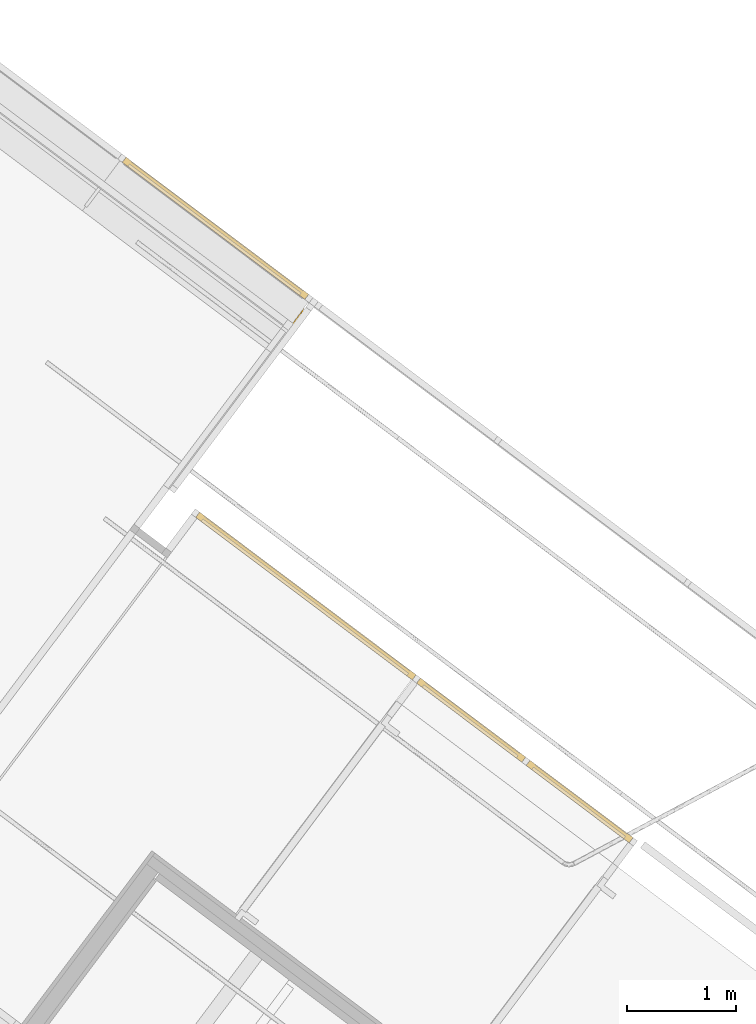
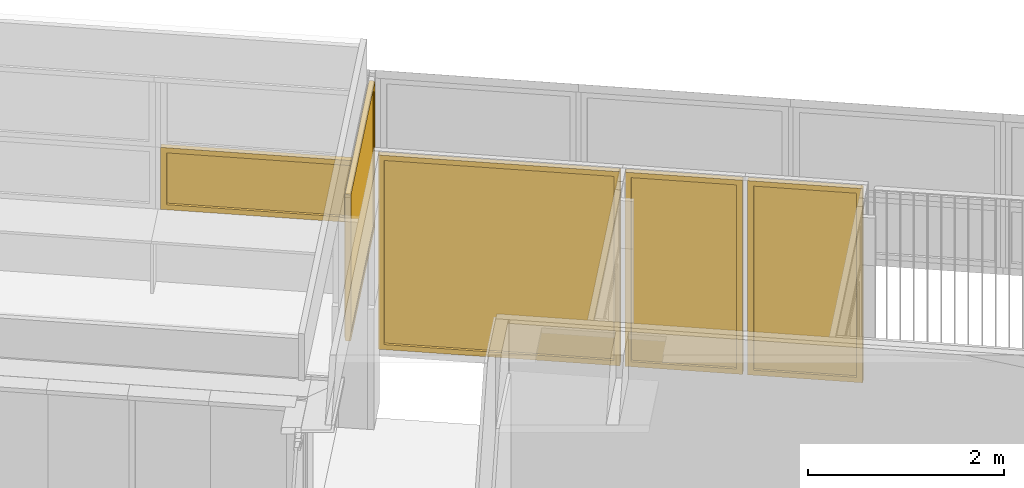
# One storey, part 239 of 243: 5 windows, 3 elements without a shape of their own.
"""IFC2X3 building model written with IfcOpenShell, lengths in metres."""

from ifc_helpers import new_model, entity, si_unit, converted_unit, derived_unit, direction, frame, origin, place, context, subcontext, project, spatial, faceted_brep, source, transform, mapped, material, material_list, type_object, type_shapes, element, aggregate, save


model = new_model("IFC2X3")

# Units and contexts
model_context = context("Model", 3, precision=1e-05, world=origin(), true_north=direction((6.123031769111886e-17, 1.0)))
body_context = subcontext(model_context, "Body", "Model", "MODEL_VIEW")
ifc_project = project(units=[si_unit("LENGTHUNIT", "METRE"), si_unit("AREAUNIT", "SQUARE_METRE"), si_unit("VOLUMEUNIT", "CUBIC_METRE"), converted_unit("PLANEANGLEUNIT", "DEGREE", entity("IfcRatioMeasure", 0.017453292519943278), si_unit("PLANEANGLEUNIT", "RADIAN"), dimensions=[0, 0, 0, 0, 0, 0, 0]), si_unit("MASSUNIT", "GRAM", prefix="KILO"), derived_unit("MASSDENSITYUNIT", [(si_unit("MASSUNIT", "GRAM", prefix="KILO"), 1), (si_unit("LENGTHUNIT", "METRE"), -3)]), derived_unit("IONCONCENTRATIONUNIT", [(si_unit("MASSUNIT", "GRAM", prefix="KILO"), 1), (si_unit("LENGTHUNIT", "METRE"), -3)]), derived_unit("MOMENTOFINERTIAUNIT", [(si_unit("LENGTHUNIT", "METRE"), 4)]), si_unit("TIMEUNIT", "SECOND"), si_unit("FREQUENCYUNIT", "HERTZ"), si_unit("THERMODYNAMICTEMPERATUREUNIT", "DEGREE_CELSIUS"), derived_unit("THERMALTRANSMITTANCEUNIT", [(si_unit("MASSUNIT", "GRAM", prefix="KILO"), 1), (si_unit("THERMODYNAMICTEMPERATUREUNIT", "KELVIN"), -1), (si_unit("TIMEUNIT", "SECOND"), -3)]), derived_unit("THERMALCONDUCTANCEUNIT", [(si_unit("MASSUNIT", "GRAM", prefix="KILO"), 1), (si_unit("THERMODYNAMICTEMPERATUREUNIT", "KELVIN"), -1), (si_unit("TIMEUNIT", "SECOND"), -3), (si_unit("LENGTHUNIT", "METRE"), 1)]), derived_unit("VOLUMETRICFLOWRATEUNIT", [(si_unit("LENGTHUNIT", "METRE"), 3), (si_unit("TIMEUNIT", "SECOND"), -1)]), derived_unit("MASSFLOWRATEUNIT", [(si_unit("MASSUNIT", "GRAM", prefix="KILO"), 1), (si_unit("TIMEUNIT", "SECOND"), -1)]), derived_unit("ROTATIONALFREQUENCYUNIT", [(si_unit("TIMEUNIT", "SECOND"), -1)]), si_unit("ELECTRICCURRENTUNIT", "AMPERE"), si_unit("ELECTRICVOLTAGEUNIT", "VOLT"), si_unit("POWERUNIT", "WATT"), si_unit("FORCEUNIT", "NEWTON", prefix="KILO"), si_unit("ILLUMINANCEUNIT", "LUX"), si_unit("LUMINOUSFLUXUNIT", "LUMEN"), si_unit("LUMINOUSINTENSITYUNIT", "CANDELA"), derived_unit("USERDEFINED", [(si_unit("MASSUNIT", "GRAM", prefix="KILO"), -1), (si_unit("LENGTHUNIT", "METRE"), -2), (si_unit("TIMEUNIT", "SECOND"), 3), (si_unit("LUMINOUSFLUXUNIT", "LUMEN"), 1)]), derived_unit("USERDEFINED", [(si_unit("MASSUNIT", "GRAM", prefix="KILO"), 1), (si_unit("TIMEUNIT", "SECOND"), -3), (si_unit("LENGTHUNIT", "METRE"), 3), (si_unit("ELECTRICCURRENTUNIT", "AMPERE"), -2)]), derived_unit("SOUNDPOWERUNIT", [(si_unit("MASSUNIT", "GRAM", prefix="KILO"), 1), (si_unit("TIMEUNIT", "SECOND"), -3), (si_unit("LENGTHUNIT", "METRE"), 2)]), derived_unit("SOUNDPRESSUREUNIT", [(si_unit("MASSUNIT", "GRAM", prefix="KILO"), 1), (si_unit("LENGTHUNIT", "METRE"), -1), (si_unit("TIMEUNIT", "SECOND"), -2)]), derived_unit("LINEARVELOCITYUNIT", [(si_unit("LENGTHUNIT", "METRE"), 1), (si_unit("TIMEUNIT", "SECOND"), -1)]), si_unit("PRESSUREUNIT", "PASCAL"), derived_unit("USERDEFINED", [(si_unit("MASSUNIT", "GRAM", prefix="KILO"), 1), (si_unit("LENGTHUNIT", "METRE"), -2), (si_unit("TIMEUNIT", "SECOND"), -2)]), derived_unit("LINEARFORCEUNIT", [(si_unit("MASSUNIT", "GRAM", prefix="KILO"), 1), (si_unit("TIMEUNIT", "SECOND"), -2)]), derived_unit("PLANARFORCEUNIT", [(si_unit("MASSUNIT", "GRAM", prefix="KILO"), 1), (si_unit("LENGTHUNIT", "METRE"), -1), (si_unit("TIMEUNIT", "SECOND"), -2)]), derived_unit("SPECIFICHEATCAPACITYUNIT", [(si_unit("THERMODYNAMICTEMPERATUREUNIT", "KELVIN"), -1), (si_unit("LENGTHUNIT", "METRE"), 2), (si_unit("TIMEUNIT", "SECOND"), -2)]), derived_unit("HEATINGVALUEUNIT", [(si_unit("LENGTHUNIT", "METRE"), 2), (si_unit("TIMEUNIT", "SECOND"), -2)]), derived_unit("VAPORPERMEABILITYUNIT", [(si_unit("LENGTHUNIT", "METRE"), -1), (si_unit("TIMEUNIT", "SECOND"), 1)]), derived_unit("DYNAMICVISCOSITYUNIT", [(si_unit("MASSUNIT", "GRAM", prefix="KILO"), 1), (si_unit("TIMEUNIT", "SECOND"), -1), (si_unit("LENGTHUNIT", "METRE"), -1)]), derived_unit("THERMALEXPANSIONCOEFFICIENTUNIT", [(si_unit("THERMODYNAMICTEMPERATUREUNIT", "KELVIN"), -1)]), derived_unit("MODULUSOFELASTICITYUNIT", [(si_unit("MASSUNIT", "GRAM", prefix="KILO"), 1), (si_unit("LENGTHUNIT", "METRE"), -1), (si_unit("TIMEUNIT", "SECOND"), -2)]), derived_unit("ISOTHERMALMOISTURECAPACITYUNIT", [(si_unit("LENGTHUNIT", "METRE"), 3), (si_unit("MASSUNIT", "GRAM", prefix="KILO"), -1)]), derived_unit("MOISTUREDIFFUSIVITYUNIT", [(si_unit("TIMEUNIT", "SECOND"), -1), (si_unit("LENGTHUNIT", "METRE"), 2)])], contexts=[model_context])

# Site, building, storey
site_placement = place(None, frame((0.0, 0.0, 235.0), z_axis=(0.0, 0.0, 1.0), x_axis=(-0.7996477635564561, 0.6004693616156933, 0.0)))
site = spatial("IfcSite", under=ifc_project, at=site_placement, Name="Default", CompositionType="ELEMENT")
building_placement = place(site_placement, origin())
building = spatial("IfcBuilding", under=site, at=building_placement, CompositionType="ELEMENT")
storey_placement = place(building_placement, origin())
storey = spatial("IfcBuildingStorey", under=building, at=storey_placement, Name="P0- Escola", CompositionType="ELEMENT", Elevation=0.0)

# Curtain wall, window
curtain_wall_type_1 = type_object("IfcCurtainWallType", Name="Muro cortina:MC- EXT- MC6", PredefinedType="NOTDEFINED")
curtain_wall_1_placement = place(storey_placement, origin())
curtain_wall_1 = element("IfcCurtainWall", 1, at=curtain_wall_1_placement, inside=storey, type_object=curtain_wall_type_1, Name="Muro cortina:MC- EXT- MC6", ObjectType="Muro cortina:MC- EXT- MC6")
ifc_material_1 = material(Name="_Vidre")
ifc_material_2 = material(Name="_Alumini- T1- Perfil")
ifc_material_list = material_list([ifc_material_1, ifc_material_2])
window_style_1 = type_object("IfcWindowStyle", Name="MC- Alu- Conjunt vidre fix- 62x60 cm:MC- Alu- Conjunt vidre fix- 62x60 cm", ConstructionType="NOTDEFINED", OperationType="NOTDEFINED", ParameterTakesPrecedence=False, Sizeable=False, material=ifc_material_list)
shared_shape_1 = source(origin(), body_context, "Body", "Brep", [
    faceted_brep([(-0.9991912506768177, -0.007600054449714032, 0.048806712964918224), (0.9991912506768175, -0.007600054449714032, 0.048806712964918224), (0.9991912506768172, -0.03160022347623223, 0.048806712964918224), (-0.9991912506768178, -0.03160022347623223, 0.048806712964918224), (-0.9991912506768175, -0.007600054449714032, 0.7210000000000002), (0.9991912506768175, -0.007600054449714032, 0.7210000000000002), (0.9991912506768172, -0.03160022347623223, 0.7210000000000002), (-0.9991912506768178, -0.03160022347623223, 0.7210000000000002)], [[[0, 1, 2, 3]], [[4, 5, 1, 0]], [[5, 6, 2, 1]], [[6, 7, 3, 2]], [[7, 4, 0, 3]], [[4, 7, 6, 5]]]),
    faceted_brep([(-1.0479979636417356, -0.05999999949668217, 0.7700000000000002), (-1.0479979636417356, 0.0, 0.7700000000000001), (-1.0479979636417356, 0.0, 0.0), (-1.0479979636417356, -0.05999999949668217, 0.0), (-0.9851911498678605, 0.0, 0.707193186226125), (-0.9851911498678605, 0.0, 0.06280681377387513), (0.9851911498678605, 0.0, 0.06280681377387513), (0.9851911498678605, 0.0, 0.707193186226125), (1.0479979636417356, 0.0, 0.7700000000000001), (1.0479979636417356, 0.0, 0.0), (1.0479979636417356, -0.05999999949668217, 0.0), (1.0479979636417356, -0.05999999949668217, 0.7700000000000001), (0.9851939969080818, -0.05999999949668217, 0.7071960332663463), (0.9851939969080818, -0.05999999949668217, 0.0628039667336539), (-0.9851939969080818, -0.05999999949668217, 0.06280396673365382), (-0.9851939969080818, -0.05999999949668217, 0.7071960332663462), (-0.9851939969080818, -0.03160022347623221, 0.7071960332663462), (-0.9851939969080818, -0.03160022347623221, 0.06280396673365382), (0.9851939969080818, -0.03160022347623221, 0.0628039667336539), (0.9851939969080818, -0.03160022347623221, 0.7071960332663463), (0.9991912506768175, -0.03160022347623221, 0.721193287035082), (0.9991912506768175, -0.03160022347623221, 0.048806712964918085), (-0.9991912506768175, -0.03160022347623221, 0.04880671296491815), (-0.9991912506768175, -0.03160022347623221, 0.721193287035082), (-0.9991912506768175, -0.007600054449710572, 0.721193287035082), (-0.9991912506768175, -0.007600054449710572, 0.04880671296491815), (0.9991912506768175, -0.007600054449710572, 0.048806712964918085), (0.9991912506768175, -0.007600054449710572, 0.721193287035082), (0.9851911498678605, -0.007600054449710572, 0.707193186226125), (0.9851911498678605, -0.007600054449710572, 0.06280681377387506), (-0.9851911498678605, -0.007600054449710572, 0.06280681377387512), (-0.9851911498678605, -0.007600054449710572, 0.707193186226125)], [[[0, 1, 2, 3]], [[4, 5, 6, 7], [8, 9, 2, 1]], [[3, 2, 9, 10]], [[0, 3, 10, 11], [12, 13, 14, 15]], [[16, 15, 14, 17]], [[17, 14, 13, 18]], [[16, 17, 18, 19], [20, 21, 22, 23]], [[24, 23, 22, 25]], [[25, 22, 21, 26]], [[24, 25, 26, 27], [28, 29, 30, 31]], [[4, 31, 30, 5]], [[5, 30, 29, 6]], [[10, 9, 8, 11]], [[18, 13, 12, 19]], [[26, 21, 20, 27]], [[6, 29, 28, 7]], [[11, 8, 1, 0]], [[19, 12, 15, 16]], [[27, 20, 23, 24]], [[7, 28, 31, 4]]], outer=[[True], [False, True], [True], [True, False], [True], [True], [False, True], [True], [True], [True, False], [True], [True], [True], [True], [True], [True], [True], [True], [True], [True]]),
])
type_shapes(window_style_1, [shared_shape_1])
window_1_placement = place(curtain_wall_1_placement, frame((37.7431456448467, -42.34019175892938, 0.685), z_axis=(0.0, 0.0, 1.0), x_axis=(-1.0, 0.0, 0.0)))
window_1 = element("IfcWindow", 2, at=window_1_placement, type_object=window_style_1, material=ifc_material_list, Name="MC- Alu- Conjunt vidre fix- 62x60 cm:MC- Alu- Conjunt vidre fix- 62x60 cm", ObjectType="MC- Alu- Conjunt vidre fix- 62x60 cm:MC- Alu- Conjunt vidre fix- 62x60 cm", OverallHeight=0.7700000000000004, OverallWidth=2.095995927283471, context=body_context, shape_type="MappedRepresentation", body=[
    mapped(shared_shape_1, transform((0.0, 0.0, 0.0), scale=1.0)),
])
aggregate(curtain_wall_1, [window_1])

curtain_wall_2_placement = place(storey_placement, origin())
curtain_wall_2 = element("IfcCurtainWall", 3, at=curtain_wall_2_placement, inside=storey, type_object=curtain_wall_type_1, Name="Muro cortina:MC- EXT- MC6", ObjectType="Muro cortina:MC- EXT- MC6")
window_style_2 = type_object("IfcWindowStyle", Name="MC- Alu- Conjunt finestra basculant- 68x68 cm:MC- Alu- Conjunt finestra basculant- 68x68 cm", ConstructionType="NOTDEFINED", OperationType="NOTDEFINED", ParameterTakesPrecedence=False, Sizeable=False, material=ifc_material_list)
shared_shape_2 = source(origin(), body_context, "Body", "Brep", [
    faceted_brep([(-0.9679117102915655, -0.03559830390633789, 0.051999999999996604), (-0.9679117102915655, -0.01159813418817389, 0.051999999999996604), (0.9679117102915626, -0.011598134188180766, 0.051999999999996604), (0.9679117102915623, -0.03559830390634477, 0.051999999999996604), (-0.9679117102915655, -0.03559830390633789, 1.765302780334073), (-0.9679117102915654, -0.01159813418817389, 1.765302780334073), (0.9679117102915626, -0.011598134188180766, 1.765302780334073), (0.9679117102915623, -0.03559830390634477, 1.765302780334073)], [[[0, 1, 2, 3]], [[4, 5, 1, 0]], [[5, 6, 2, 1]], [[6, 7, 3, 2]], [[7, 4, 0, 3]], [[4, 7, 6, 5]]]),
    faceted_brep([(0.9522108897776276, -0.009998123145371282, 1.7496019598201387), (0.9522108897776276, -0.007998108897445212, 1.7496019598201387), (0.9522108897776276, -0.007998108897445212, 0.06789804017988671), (0.9522108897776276, -0.009998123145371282, 0.06789804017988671), (0.9811089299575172, -0.007998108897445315, 1.7785000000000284), (0.9811089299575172, -0.007998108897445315, 0.03899999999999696), (-0.98110892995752, -0.007998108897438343, 0.03899999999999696), (-0.98110892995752, -0.007998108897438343, 1.7785000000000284), (-0.9522108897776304, -0.007998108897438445, 1.7496019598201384), (-0.9522108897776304, -0.007998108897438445, 0.06789804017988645), (-0.9522108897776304, -0.009998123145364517, 0.06789804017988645), (-0.9522108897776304, -0.009998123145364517, 1.7496019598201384), (-0.9679117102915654, -0.009998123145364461, 1.7653027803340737), (-0.9679117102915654, -0.009998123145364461, 0.052197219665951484), (0.9679117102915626, -0.00999812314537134, 0.052197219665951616), (0.9679117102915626, -0.00999812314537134, 1.7653027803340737), (0.9679117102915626, -0.040799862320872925, 1.7653027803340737), (0.9679117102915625, -0.04079986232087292, 0.052197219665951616), (-0.9679117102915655, -0.04079986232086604, 0.052197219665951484), (-0.9679117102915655, -0.04079986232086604, 1.7653027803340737), (-0.9522108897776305, -0.0407998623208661, 1.7496019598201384), (-0.9522108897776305, -0.0407998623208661, 0.06789804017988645), (0.9522108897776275, -0.04079986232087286, 0.06789804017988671), (0.9522108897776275, -0.04079986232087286, 1.7496019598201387), (0.9522108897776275, -0.06800005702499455, 1.7496019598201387), (0.9522108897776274, -0.06800005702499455, 0.06789804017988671), (-0.9522108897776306, -0.06800005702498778, 0.06789804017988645), (-0.9522108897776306, -0.06800005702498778, 1.7496019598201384), (-0.9986128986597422, -0.06800005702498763, 1.7960039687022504), (-0.9986128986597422, -0.06800005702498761, 0.021496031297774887), (0.998612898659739, -0.06800005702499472, 0.021496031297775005), (0.998612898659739, -0.06800005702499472, 1.7960039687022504), (0.998612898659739, -0.06450003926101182, 1.7960039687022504), (0.9986128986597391, -0.06450003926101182, 0.021496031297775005), (-0.9986128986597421, -0.06450003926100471, 0.02149603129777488), (-0.9986128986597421, -0.06450003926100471, 1.7960039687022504), (-0.9811089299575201, -0.06450003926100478, 1.7785000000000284), (-0.9811089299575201, -0.06450003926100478, 0.03899999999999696), (0.9811089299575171, -0.06450003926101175, 0.03899999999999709), (0.9811089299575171, -0.06450003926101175, 1.7785000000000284)], [[[0, 1, 2, 3]], [[4, 5, 6, 7], [8, 9, 2, 1]], [[3, 2, 9, 10]], [[0, 3, 10, 11], [12, 13, 14, 15]], [[16, 15, 14, 17]], [[17, 14, 13, 18]], [[16, 17, 18, 19], [20, 21, 22, 23]], [[24, 23, 22, 25]], [[25, 22, 21, 26]], [[24, 25, 26, 27], [28, 29, 30, 31]], [[32, 31, 30, 33]], [[33, 30, 29, 34]], [[32, 33, 34, 35], [36, 37, 38, 39]], [[4, 39, 38, 5]], [[5, 38, 37, 6]], [[10, 9, 8, 11]], [[18, 13, 12, 19]], [[26, 21, 20, 27]], [[34, 29, 28, 35]], [[6, 37, 36, 7]], [[11, 8, 1, 0]], [[19, 12, 15, 16]], [[27, 20, 23, 24]], [[35, 28, 31, 32]], [[7, 36, 39, 4]]], outer=[[True], [True, False], [True], [False, True], [True], [True], [True, False], [True], [True], [False, True], [True], [True], [True, False], [True], [True], [True], [True], [True], [True], [True], [True], [True], [True], [True], [True]]),
    faceted_brep([(-0.957193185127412, 0.0, 1.7546931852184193), (-0.957193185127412, -0.0040000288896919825, 1.7546931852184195), (-0.9571931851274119, -0.0040000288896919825, 0.06280681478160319), (-0.9571931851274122, 0.0, 0.06280681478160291), (-0.9925998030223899, -0.0040000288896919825, 1.7900998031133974), (-0.9925998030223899, -0.0040000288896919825, 0.02740019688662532), (0.9925998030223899, -0.0040000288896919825, 0.02740019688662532), (0.9925998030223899, -0.0040000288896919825, 1.7900998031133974), (0.957193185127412, -0.0040000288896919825, 1.7546931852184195), (0.957193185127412, -0.0040000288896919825, 0.06280681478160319), (0.9571931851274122, 0.0, 0.06280681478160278), (0.9571931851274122, 0.0, 1.7546931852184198), (1.0199999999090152, 0.0, 1.8175000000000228), (1.0199999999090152, 0.0, 0.0), (-1.0199999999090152, 0.0, 0.0), (-1.0199999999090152, 0.0, 1.8175000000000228), (-1.0199999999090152, -0.05999999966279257, 1.8175000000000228), (-1.0199999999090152, -0.05999999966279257, 0.0), (1.0199999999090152, -0.05999999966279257, 0.0), (1.0199999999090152, -0.05999999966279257, 1.8175000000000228), (0.9925998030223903, -0.05999999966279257, 1.7900998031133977), (0.9925998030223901, -0.05999999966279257, 0.027400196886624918), (-0.9925998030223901, -0.05999999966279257, 0.027400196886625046), (-0.9925998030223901, -0.05999999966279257, 1.7900998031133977)], [[[0, 1, 2, 3]], [[4, 5, 6, 7], [8, 9, 2, 1]], [[3, 2, 9, 10]], [[0, 3, 10, 11], [12, 13, 14, 15]], [[16, 15, 14, 17]], [[17, 14, 13, 18]], [[16, 17, 18, 19], [20, 21, 22, 23]], [[4, 23, 22, 5]], [[5, 22, 21, 6]], [[10, 9, 8, 11]], [[18, 13, 12, 19]], [[6, 21, 20, 7]], [[11, 8, 1, 0]], [[19, 12, 15, 16]], [[7, 20, 23, 4]]], outer=[[True], [True, False], [True], [False, True], [True], [True], [True, False], [True], [True], [True], [True], [True], [True], [True], [True]]),
])
type_shapes(window_style_2, [shared_shape_2])
window_2_placement = place(curtain_wall_2_placement, frame((36.585147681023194, -41.2101917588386, 0.685), z_axis=(0.0, 0.0, 1.0), x_axis=(0.0, 1.0, 0.0)))
window_2 = element("IfcWindow", 4, at=window_2_placement, type_object=window_style_2, material=ifc_material_list, Name="MC- Alu- Conjunt finestra basculant- 68x68 cm:MC- Alu- Conjunt finestra basculant- 68x68 cm", ObjectType="MC- Alu- Conjunt finestra basculant- 68x68 cm:MC- Alu- Conjunt finestra basculant- 68x68 cm", OverallHeight=1.817500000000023, OverallWidth=2.0399999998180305, context=body_context, shape_type="MappedRepresentation", body=[
    mapped(shared_shape_2, transform((0.0, 0.0, 0.0), scale=1.0)),
])
aggregate(curtain_wall_2, [window_2])

# Curtain wall, windows
curtain_wall_type_2 = type_object("IfcCurtainWallType", PredefinedType="NOTDEFINED")
curtain_wall_3_placement = place(storey_placement, origin())
curtain_wall_3 = element("IfcCurtainWall", 5, at=curtain_wall_3_placement, inside=storey, type_object=curtain_wall_type_2)
window_style_3 = type_object("IfcWindowStyle", Name="MC- Alu- Conjunt vidre fix- 62x60 cm:MC- Alu- Conjunt vidre fix- 62x60 cm", ConstructionType="NOTDEFINED", OperationType="NOTDEFINED", ParameterTakesPrecedence=False, Sizeable=False, material=ifc_material_list)
shared_shape_3 = source(origin(), body_context, "Body", "Brep", [
    faceted_brep([(-1.1936953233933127, -0.007600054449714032, 0.048806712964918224), (1.1936953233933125, -0.007600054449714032, 0.048806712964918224), (1.1936953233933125, -0.03160022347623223, 0.048806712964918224), (-1.1936953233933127, -0.03160022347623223, 0.048806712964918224), (-1.1936953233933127, -0.007600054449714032, 2.366000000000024), (1.1936953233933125, -0.007600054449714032, 2.366000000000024), (1.1936953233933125, -0.03160022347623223, 2.366000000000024), (-1.1936953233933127, -0.03160022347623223, 2.366000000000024)], [[[0, 1, 2, 3]], [[4, 5, 1, 0]], [[5, 6, 2, 1]], [[6, 7, 3, 2]], [[7, 4, 0, 3]], [[4, 7, 6, 5]]]),
    faceted_brep([(-1.2425020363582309, -0.05999999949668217, 2.415000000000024), (-1.2425020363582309, 0.0, 2.415000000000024), (-1.2425020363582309, 0.0, 0.0), (-1.2425020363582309, -0.05999999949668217, 0.0), (-1.1796952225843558, 0.0, 2.352193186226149), (-1.1796952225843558, 0.0, 0.06280681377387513), (1.1796952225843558, 0.0, 0.06280681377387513), (1.1796952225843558, 0.0, 2.352193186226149), (1.2425020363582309, 0.0, 2.415000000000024), (1.2425020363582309, 0.0, 0.0), (1.2425020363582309, -0.05999999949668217, 0.0), (1.2425020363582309, -0.05999999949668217, 2.415000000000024), (1.1796980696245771, -0.05999999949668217, 2.35219603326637), (1.1796980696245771, -0.05999999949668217, 0.06280396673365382), (-1.1796980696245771, -0.05999999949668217, 0.06280396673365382), (-1.1796980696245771, -0.05999999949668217, 2.35219603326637), (-1.1796980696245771, -0.03160022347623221, 2.35219603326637), (-1.1796980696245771, -0.03160022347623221, 0.06280396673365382), (1.1796980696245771, -0.03160022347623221, 0.06280396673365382), (1.1796980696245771, -0.03160022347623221, 2.35219603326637), (1.1936953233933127, -0.03160022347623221, 2.366193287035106), (1.1936953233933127, -0.03160022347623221, 0.048806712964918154), (-1.193695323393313, -0.03160022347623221, 0.04880671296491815), (-1.1936953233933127, -0.03160022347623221, 2.366193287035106), (-1.1936953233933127, -0.007600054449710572, 2.366193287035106), (-1.1936953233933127, -0.007600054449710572, 0.04880671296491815), (1.1936953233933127, -0.007600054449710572, 0.048806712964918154), (1.1936953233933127, -0.007600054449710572, 2.366193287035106), (1.179695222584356, -0.007600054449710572, 2.352193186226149), (1.1796952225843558, -0.007600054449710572, 0.06280681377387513), (-1.179695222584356, -0.007600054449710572, 0.06280681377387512), (-1.1796952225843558, -0.007600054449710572, 2.352193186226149)], [[[0, 1, 2, 3]], [[4, 5, 6, 7], [8, 9, 2, 1]], [[3, 2, 9, 10]], [[0, 3, 10, 11], [12, 13, 14, 15]], [[16, 15, 14, 17]], [[17, 14, 13, 18]], [[16, 17, 18, 19], [20, 21, 22, 23]], [[24, 23, 22, 25]], [[25, 22, 21, 26]], [[24, 25, 26, 27], [28, 29, 30, 31]], [[4, 31, 30, 5]], [[5, 30, 29, 6]], [[10, 9, 8, 11]], [[18, 13, 12, 19]], [[26, 21, 20, 27]], [[6, 29, 28, 7]], [[11, 8, 1, 0]], [[19, 12, 15, 16]], [[27, 20, 23, 24]], [[7, 28, 31, 4]]], outer=[[True], [False, True], [True], [True, False], [True], [True], [False, True], [True], [True], [True, False], [True], [True], [True], [True], [True], [True], [True], [True], [True], [True]]),
])
type_shapes(window_style_3, [shared_shape_3])
window_3_placement = place(curtain_wall_3_placement, frame((35.052645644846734, -40.14019175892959, 0.6849999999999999), z_axis=(0.0, 0.0, 1.0), x_axis=(-1.0, 0.0, 0.0)))
window_3 = element("IfcWindow", 6, at=window_3_placement, type_object=window_style_3, material=ifc_material_list, Name="MC- Alu- Conjunt vidre fix- 62x60 cm:MC- Alu- Conjunt vidre fix- 62x60 cm", ObjectType="MC- Alu- Conjunt vidre fix- 62x60 cm:MC- Alu- Conjunt vidre fix- 62x60 cm", OverallHeight=2.415000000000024, OverallWidth=2.4850040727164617, context=body_context, shape_type="MappedRepresentation", body=[
    mapped(shared_shape_3, transform((0.0, 0.0, 0.0), scale=1.0)),
])
window_style_4 = type_object("IfcWindowStyle", Name="MC- Alu- Conjunt vidre fix- 62x60 cm:MC- Alu- Conjunt vidre fix- 62x60 cm", ConstructionType="NOTDEFINED", OperationType="NOTDEFINED", ParameterTakesPrecedence=False, Sizeable=False, material=ifc_material_list)
shared_shape_4 = source(origin(), body_context, "Body", "Brep", [
    faceted_brep([(-0.5549432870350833, -0.007600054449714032, 0.048806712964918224), (0.554943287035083, -0.007600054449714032, 0.048806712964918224), (0.554943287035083, -0.03160022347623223, 0.048806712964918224), (-0.5549432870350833, -0.03160022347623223, 0.048806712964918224), (-0.5549432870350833, -0.007600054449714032, 2.366000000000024), (0.554943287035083, -0.007600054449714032, 2.366000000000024), (0.554943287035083, -0.03160022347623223, 2.366000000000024), (-0.5549432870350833, -0.03160022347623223, 2.366000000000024)], [[[0, 1, 2, 3]], [[4, 5, 1, 0]], [[5, 6, 2, 1]], [[6, 7, 3, 2]], [[7, 4, 0, 3]], [[4, 7, 6, 5]]]),
    faceted_brep([(-0.6037500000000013, -0.05999999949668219, 2.415000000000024), (-0.6037500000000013, 0.0, 2.415000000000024), (-0.6037500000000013, 0.0, 0.0), (-0.6037500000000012, -0.05999999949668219, 0.0), (-0.5409431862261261, 0.0, 2.352193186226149), (-0.5409431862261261, 0.0, 0.06280681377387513), (0.5409431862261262, 0.0, 0.06280681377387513), (0.5409431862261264, 0.0, 2.352193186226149), (0.6037500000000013, 0.0, 2.415000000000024), (0.6037500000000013, 0.0, 0.0), (0.6037500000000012, -0.05999999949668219, 0.0), (0.6037500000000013, -0.05999999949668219, 2.415000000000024), (0.5409460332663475, -0.05999999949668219, 2.35219603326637), (0.5409460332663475, -0.05999999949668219, 0.06280396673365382), (-0.5409460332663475, -0.05999999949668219, 0.06280396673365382), (-0.5409460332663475, -0.05999999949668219, 2.35219603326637), (-0.5409460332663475, -0.03160022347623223, 2.35219603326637), (-0.5409460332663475, -0.03160022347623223, 0.06280396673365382), (0.5409460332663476, -0.03160022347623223, 0.06280396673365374), (0.5409460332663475, -0.03160022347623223, 2.35219603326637), (0.5549432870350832, -0.03160022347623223, 2.366193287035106), (0.5549432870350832, -0.03160022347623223, 0.048806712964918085), (-0.5549432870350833, -0.03160022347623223, 0.04880671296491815), (-0.5549432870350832, -0.03160022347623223, 2.366193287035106), (-0.5549432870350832, -0.007600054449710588, 2.366193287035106), (-0.5549432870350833, -0.007600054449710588, 0.04880671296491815), (0.5549432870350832, -0.007600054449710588, 0.048806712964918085), (0.5549432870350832, -0.007600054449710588, 2.366193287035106), (0.5409431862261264, -0.007600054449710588, 2.352193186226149), (0.5409431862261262, -0.007600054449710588, 0.06280681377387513), (-0.5409431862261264, -0.007600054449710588, 0.06280681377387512), (-0.5409431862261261, -0.007600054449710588, 2.352193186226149)], [[[0, 1, 2, 3]], [[4, 5, 6, 7], [8, 9, 2, 1]], [[3, 2, 9, 10]], [[0, 3, 10, 11], [12, 13, 14, 15]], [[16, 15, 14, 17]], [[17, 14, 13, 18]], [[16, 17, 18, 19], [20, 21, 22, 23]], [[24, 23, 22, 25]], [[25, 22, 21, 26]], [[24, 25, 26, 27], [28, 29, 30, 31]], [[4, 31, 30, 5]], [[5, 30, 29, 6]], [[10, 9, 8, 11]], [[18, 13, 12, 19]], [[26, 21, 20, 27]], [[6, 29, 28, 7]], [[11, 8, 1, 0]], [[19, 12, 15, 16]], [[27, 20, 23, 24]], [[7, 28, 31, 4]]], outer=[[True], [False, True], [True], [True, False], [True], [True], [False, True], [True], [True], [True, False], [True], [True], [True], [True], [True], [True], [True], [True], [True], [True]]),
])
type_shapes(window_style_4, [shared_shape_4])
window_4_placement = place(curtain_wall_3_placement, frame((33.1563936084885, -40.14019175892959, 0.6849999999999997), z_axis=(0.0, 0.0, 1.0), x_axis=(-1.0, 0.0, 0.0)))
window_4 = element("IfcWindow", 7, at=window_4_placement, type_object=window_style_4, material=ifc_material_list, Name="MC- Alu- Conjunt vidre fix- 62x60 cm:MC- Alu- Conjunt vidre fix- 62x60 cm", ObjectType="MC- Alu- Conjunt vidre fix- 62x60 cm:MC- Alu- Conjunt vidre fix- 62x60 cm", OverallHeight=2.415000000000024, OverallWidth=1.207500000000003, context=body_context, shape_type="MappedRepresentation", body=[
    mapped(shared_shape_4, transform((0.0, 0.0, 0.0), scale=1.0)),
])
window_style_5 = type_object("IfcWindowStyle", Name="MC- Alu- Conjunt vidre fix- 62x60 cm:MC- Alu- Conjunt vidre fix- 62x60 cm", ConstructionType="NOTDEFINED", OperationType="NOTDEFINED", ParameterTakesPrecedence=False, Sizeable=False, material=ifc_material_list)
shared_shape_5 = source(origin(), body_context, "Body", "Brep", [
    faceted_brep([(-0.5424432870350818, -0.007600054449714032, 0.048806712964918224), (0.5424432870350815, -0.007600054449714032, 0.048806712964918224), (0.5424432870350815, -0.03160022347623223, 0.048806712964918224), (-0.5424432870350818, -0.03160022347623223, 0.048806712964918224), (-0.5424432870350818, -0.007600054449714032, 2.366000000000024), (0.5424432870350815, -0.007600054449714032, 2.366000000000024), (0.5424432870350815, -0.03160022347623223, 2.366000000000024), (-0.5424432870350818, -0.03160022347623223, 2.366000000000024)], [[[0, 1, 2, 3]], [[4, 5, 1, 0]], [[5, 6, 2, 1]], [[6, 7, 3, 2]], [[7, 4, 0, 3]], [[4, 7, 6, 5]]]),
    faceted_brep([(-0.5912499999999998, -0.05999999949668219, 2.415000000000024), (-0.5912499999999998, 0.0, 2.415000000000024), (-0.5912499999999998, 0.0, 0.0), (-0.5912499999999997, -0.05999999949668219, 0.0), (-0.5284431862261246, 0.0, 2.352193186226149), (-0.5284431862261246, 0.0, 0.06280681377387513), (0.5284431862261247, 0.0, 0.06280681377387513), (0.5284431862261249, 0.0, 2.352193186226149), (0.5912499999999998, 0.0, 2.415000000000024), (0.5912499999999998, 0.0, 0.0), (0.5912499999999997, -0.05999999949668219, 0.0), (0.5912499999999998, -0.05999999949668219, 2.415000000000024), (0.5284460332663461, -0.05999999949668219, 2.35219603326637), (0.5284460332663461, -0.05999999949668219, 0.06280396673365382), (-0.5284460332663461, -0.05999999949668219, 0.06280396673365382), (-0.5284460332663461, -0.05999999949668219, 2.35219603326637), (-0.5284460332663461, -0.03160022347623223, 2.35219603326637), (-0.528446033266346, -0.03160022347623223, 0.06280396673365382), (0.5284460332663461, -0.03160022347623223, 0.06280396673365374), (0.5284460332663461, -0.03160022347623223, 2.35219603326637), (0.5424432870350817, -0.03160022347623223, 2.366193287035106), (0.5424432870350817, -0.03160022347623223, 0.048806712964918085), (-0.5424432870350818, -0.03160022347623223, 0.04880671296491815), (-0.5424432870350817, -0.03160022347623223, 2.366193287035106), (-0.5424432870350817, -0.007600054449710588, 2.366193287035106), (-0.5424432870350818, -0.007600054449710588, 0.04880671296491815), (0.5424432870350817, -0.007600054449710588, 0.048806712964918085), (0.5424432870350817, -0.007600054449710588, 2.366193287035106), (0.5284431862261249, -0.007600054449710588, 2.352193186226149), (0.5284431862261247, -0.007600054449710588, 0.06280681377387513), (-0.5284431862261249, -0.007600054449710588, 0.06280681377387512), (-0.5284431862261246, -0.007600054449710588, 2.352193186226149)], [[[0, 1, 2, 3]], [[4, 5, 6, 7], [8, 9, 2, 1]], [[3, 2, 9, 10]], [[0, 3, 10, 11], [12, 13, 14, 15]], [[16, 15, 14, 17]], [[17, 14, 13, 18]], [[16, 17, 18, 19], [20, 21, 22, 23]], [[24, 23, 22, 25]], [[25, 22, 21, 26]], [[24, 25, 26, 27], [28, 29, 30, 31]], [[4, 31, 30, 5]], [[5, 30, 29, 6]], [[10, 9, 8, 11]], [[18, 13, 12, 19]], [[26, 21, 20, 27]], [[6, 29, 28, 7]], [[11, 8, 1, 0]], [[19, 12, 15, 16]], [[27, 20, 23, 24]], [[7, 28, 31, 4]]], outer=[[True], [False, True], [True], [True, False], [True], [True], [False, True], [True], [True], [True, False], [True], [True], [True], [True], [True], [True], [True], [True], [True], [True]]),
])
type_shapes(window_style_5, [shared_shape_5])
window_5_placement = place(curtain_wall_3_placement, frame((31.911393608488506, -40.14019175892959, 0.6849999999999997), z_axis=(0.0, 0.0, 1.0), x_axis=(-1.0, 0.0, 0.0)))
window_5 = element("IfcWindow", 8, at=window_5_placement, type_object=window_style_5, material=ifc_material_list, Name="MC- Alu- Conjunt vidre fix- 62x60 cm:MC- Alu- Conjunt vidre fix- 62x60 cm", ObjectType="MC- Alu- Conjunt vidre fix- 62x60 cm:MC- Alu- Conjunt vidre fix- 62x60 cm", OverallHeight=2.415000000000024, OverallWidth=1.1824999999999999, context=body_context, shape_type="MappedRepresentation", body=[
    mapped(shared_shape_5, transform((0.0, 0.0, 0.0), scale=1.0)),
])
aggregate(curtain_wall_3, [window_3, window_4, window_5])

save(model, "model.ifc")
